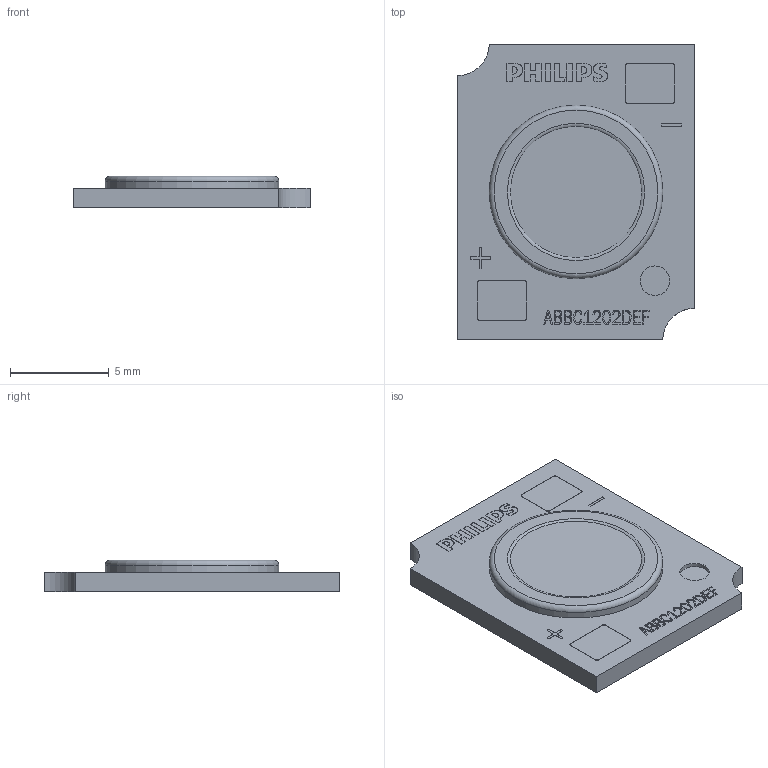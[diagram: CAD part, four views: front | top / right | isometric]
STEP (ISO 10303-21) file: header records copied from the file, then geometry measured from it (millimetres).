
FILE_DESCRIPTION(/* description */ (''),/* implementation_level */ '2;1');
FILE_NAME(/* name */ 'G7 HE+ 1202.stp',/* time_stamp */ '2023-03-14T18:03:23+08:00',/* author */ (''),/* organization */ (''),/* preprocessor_version */ 'ST-DEVELOPER v16',/* originating_system */ 'SIEMENS PLM Software NX 10.0',/* authorisation */ '');
FILE_SCHEMA (('AUTOMOTIVE_DESIGN { 1 0 10303 214 3 1 1 1 }'));
Length unit declared in the file: millimetre
Products named in the file (1): 31003E3C1351hwk8
Bounding box: 12 x 15 x 1.6 mm (x, y, z)
Volume: 209.6 mm3; surface area: 420.2 mm2
Topology: 1 solids, 1 shells, 421 faces, 1152 edges, 768 vertices
Faces by surface type: plane 381, extrusion 26, cylinder 12, torus 2
Full cylindrical faces by diameter (mm): 1.5 x1, 8.8 x1
Entity records: 14198 total; most frequent: CARTESIAN_POINT 3658, ORIENTED_EDGE 2292, DIRECTION 1809, EDGE_CURVE 1146, VECTOR 963, LINE 937, VERTEX_POINT 767, EDGE_LOOP 461
